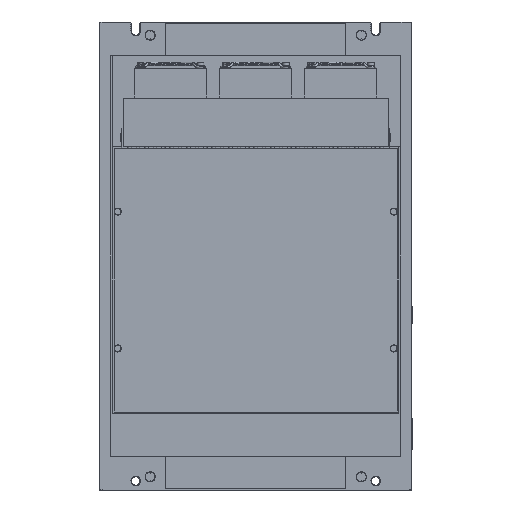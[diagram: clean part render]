
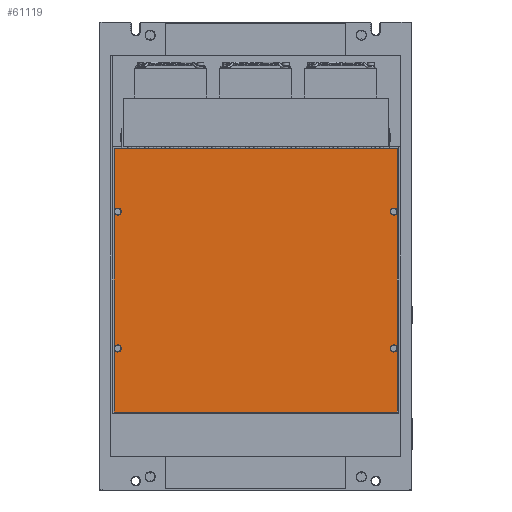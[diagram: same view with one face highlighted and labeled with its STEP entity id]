
A CAD part, front view. The second image highlights one B-rep face of the part: STEP entity #61119.
In plain terms, the highlighted planar face has unit normal (0, -1, 0).
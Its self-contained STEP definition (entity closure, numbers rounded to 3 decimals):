
#5924=CARTESIAN_POINT('',(234.,-70.5,-168.));
#5925=DIRECTION('',(0.,-1.,0.));
#5926=DIRECTION('',(-1.,0.,0.));
#5927=AXIS2_PLACEMENT_3D('',#5924,#5925,#5926);
#5929=DIRECTION('',(0.,0.,1.));
#5930=VECTOR('',#5929,53.);
#5931=CARTESIAN_POINT('',(237.,-70.5,-221.));
#5932=LINE('',#5931,#5930);
#5933=DIRECTION('',(1.,0.,0.));
#5934=VECTOR('',#5933,236.);
#5935=CARTESIAN_POINT('',(1.,-70.5,-221.));
#5936=LINE('',#5935,#5934);
#5937=DIRECTION('',(0.,0.,-1.));
#5938=VECTOR('',#5937,53.);
#5939=CARTESIAN_POINT('',(1.,-70.5,-168.));
#5940=LINE('',#5939,#5938);
#5941=CARTESIAN_POINT('',(4.,-70.5,-168.));
#5942=DIRECTION('',(0.,-1.,0.));
#5943=DIRECTION('',(-1.,0.,0.));
#5944=AXIS2_PLACEMENT_3D('',#5941,#5942,#5943);
#5946=CARTESIAN_POINT('',(4.,-70.5,-168.));
#5947=DIRECTION('',(0.,-1.,0.));
#5948=DIRECTION('',(1.,0.,0.));
#5949=AXIS2_PLACEMENT_3D('',#5946,#5947,#5948);
#5951=DIRECTION('',(0.,0.,-1.));
#5952=VECTOR('',#5951,114.);
#5953=CARTESIAN_POINT('',(1.,-70.5,-54.));
#5954=LINE('',#5953,#5952);
#5955=CARTESIAN_POINT('',(4.,-70.5,-54.));
#5956=DIRECTION('',(0.,-1.,0.));
#5957=DIRECTION('',(-1.,0.,0.));
#5958=AXIS2_PLACEMENT_3D('',#5955,#5956,#5957);
#5960=CARTESIAN_POINT('',(4.,-70.5,-54.));
#5961=DIRECTION('',(0.,-1.,0.));
#5962=DIRECTION('',(1.,0.,0.));
#5963=AXIS2_PLACEMENT_3D('',#5960,#5961,#5962);
#5965=DIRECTION('',(0.,0.,-1.));
#5966=VECTOR('',#5965,53.);
#5967=CARTESIAN_POINT('',(1.,-70.5,-1.));
#5968=LINE('',#5967,#5966);
#5969=DIRECTION('',(-1.,0.,0.));
#5970=VECTOR('',#5969,236.);
#5971=CARTESIAN_POINT('',(237.,-70.5,-1.));
#5972=LINE('',#5971,#5970);
#5973=DIRECTION('',(0.,0.,1.));
#5974=VECTOR('',#5973,53.);
#5975=CARTESIAN_POINT('',(237.,-70.5,-54.));
#5976=LINE('',#5975,#5974);
#5977=CARTESIAN_POINT('',(234.,-70.5,-54.));
#5978=DIRECTION('',(0.,-1.,0.));
#5979=DIRECTION('',(1.,0.,0.));
#5980=AXIS2_PLACEMENT_3D('',#5977,#5978,#5979);
#5982=CARTESIAN_POINT('',(234.,-70.5,-54.));
#5983=DIRECTION('',(0.,-1.,0.));
#5984=DIRECTION('',(-1.,0.,0.));
#5985=AXIS2_PLACEMENT_3D('',#5982,#5983,#5984);
#5987=DIRECTION('',(0.,0.,1.));
#5988=VECTOR('',#5987,114.);
#5989=CARTESIAN_POINT('',(237.,-70.5,-168.));
#5990=LINE('',#5989,#5988);
#5991=CARTESIAN_POINT('',(234.,-70.5,-168.));
#5992=DIRECTION('',(0.,-1.,0.));
#5993=DIRECTION('',(1.,0.,0.));
#5994=AXIS2_PLACEMENT_3D('',#5991,#5992,#5993);
#45296=CARTESIAN_POINT('',(237.,-70.5,-1.));
#45297=CARTESIAN_POINT('',(1.,-70.5,-1.));
#45298=VERTEX_POINT('',#45296);
#45299=VERTEX_POINT('',#45297);
#45300=CARTESIAN_POINT('',(1.,-70.5,-221.));
#45301=CARTESIAN_POINT('',(237.,-70.5,-221.));
#45302=VERTEX_POINT('',#45300);
#45303=VERTEX_POINT('',#45301);
#45584=CARTESIAN_POINT('',(231.,-70.5,-168.));
#45585=CARTESIAN_POINT('',(237.,-70.5,-168.));
#45586=VERTEX_POINT('',#45584);
#45587=VERTEX_POINT('',#45585);
#45588=CARTESIAN_POINT('',(231.,-70.5,-54.));
#45589=CARTESIAN_POINT('',(237.,-70.5,-54.));
#45590=VERTEX_POINT('',#45588);
#45591=VERTEX_POINT('',#45589);
#45592=CARTESIAN_POINT('',(1.,-70.5,-168.));
#45593=CARTESIAN_POINT('',(7.,-70.5,-168.));
#45594=VERTEX_POINT('',#45592);
#45595=VERTEX_POINT('',#45593);
#45596=CARTESIAN_POINT('',(1.,-70.5,-54.));
#45597=CARTESIAN_POINT('',(7.,-70.5,-54.));
#45598=VERTEX_POINT('',#45596);
#45599=VERTEX_POINT('',#45597);
#61085=CARTESIAN_POINT('',(0.,-70.5,0.));
#61086=DIRECTION('',(0.,-1.,0.));
#61087=DIRECTION('',(-1.,0.,0.));
#61088=AXIS2_PLACEMENT_3D('',#61085,#61086,#61087);
#61089=PLANE('',#61088);
#61091=ORIENTED_EDGE('',*,*,#61090,.T.);
#61093=ORIENTED_EDGE('',*,*,#61092,.F.);
#61094=ORIENTED_EDGE('',*,*,#60921,.F.);
#61095=ORIENTED_EDGE('',*,*,#61070,.F.);
#61097=ORIENTED_EDGE('',*,*,#61096,.T.);
#61099=ORIENTED_EDGE('',*,*,#61098,.T.);
#61100=ORIENTED_EDGE('',*,*,#61068,.F.);
#61102=ORIENTED_EDGE('',*,*,#61101,.T.);
#61104=ORIENTED_EDGE('',*,*,#61103,.T.);
#61105=ORIENTED_EDGE('',*,*,#61066,.F.);
#61106=ORIENTED_EDGE('',*,*,#60831,.F.);
#61108=ORIENTED_EDGE('',*,*,#61107,.F.);
#61110=ORIENTED_EDGE('',*,*,#61109,.T.);
#61112=ORIENTED_EDGE('',*,*,#61111,.T.);
#61114=ORIENTED_EDGE('',*,*,#61113,.F.);
#61116=ORIENTED_EDGE('',*,*,#61115,.T.);
#61117=EDGE_LOOP('',(#61091,#61093,#61094,#61095,#61097,#61099,#61100,#61102,
#61104,#61105,#61106,#61108,#61110,#61112,#61114,#61116));
#61118=FACE_OUTER_BOUND('',#61117,.F.);
#5928=CIRCLE('',#5927,3.);
#5945=CIRCLE('',#5944,3.);
#5950=CIRCLE('',#5949,3.);
#5959=CIRCLE('',#5958,3.);
#5964=CIRCLE('',#5963,3.);
#5981=CIRCLE('',#5980,3.);
#5986=CIRCLE('',#5985,3.);
#5995=CIRCLE('',#5994,3.);
#60831=EDGE_CURVE('',#45298,#45299,#5972,.T.);
#60921=EDGE_CURVE('',#45302,#45303,#5936,.T.);
#61066=EDGE_CURVE('',#45299,#45598,#5968,.T.);
#61068=EDGE_CURVE('',#45598,#45594,#5954,.T.);
#61070=EDGE_CURVE('',#45594,#45302,#5940,.T.);
#61090=EDGE_CURVE('',#45586,#45587,#5928,.T.);
#61092=EDGE_CURVE('',#45303,#45587,#5932,.T.);
#61096=EDGE_CURVE('',#45594,#45595,#5945,.T.);
#61098=EDGE_CURVE('',#45595,#45594,#5950,.T.);
#61101=EDGE_CURVE('',#45598,#45599,#5959,.T.);
#61103=EDGE_CURVE('',#45599,#45598,#5964,.T.);
#61107=EDGE_CURVE('',#45591,#45298,#5976,.T.);
#61109=EDGE_CURVE('',#45591,#45590,#5981,.T.);
#61111=EDGE_CURVE('',#45590,#45591,#5986,.T.);
#61113=EDGE_CURVE('',#45587,#45591,#5990,.T.);
#61115=EDGE_CURVE('',#45587,#45586,#5995,.T.);
#61119=ADVANCED_FACE('',(#61118),#61089,.T.);
